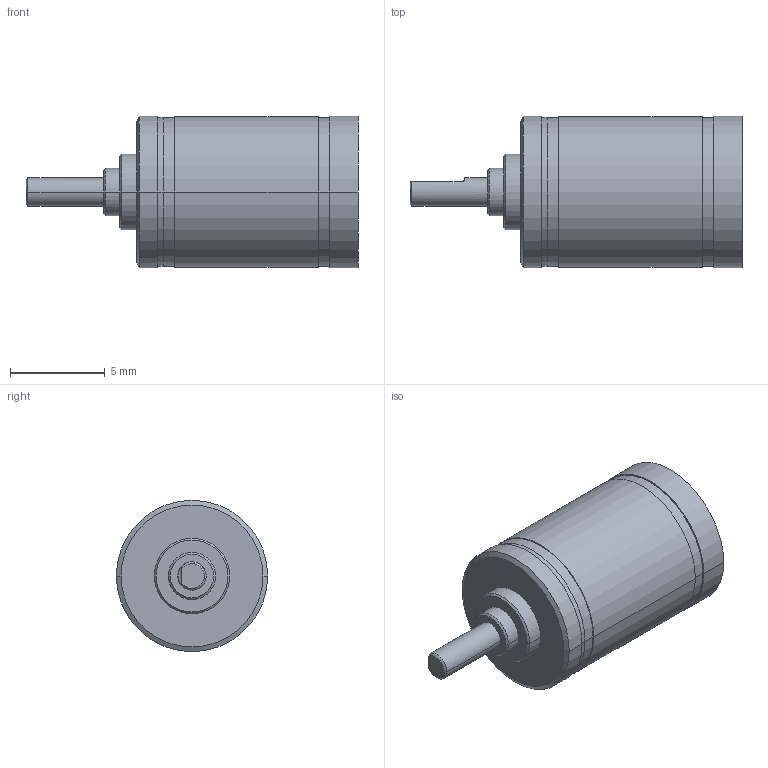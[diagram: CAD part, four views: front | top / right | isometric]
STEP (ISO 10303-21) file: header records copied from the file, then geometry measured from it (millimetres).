
FILE_DESCRIPTION((''),'2;1');
FILE_NAME('GP8A_2-STUFIG_381895','2013-05-21T',('MMAGPETK'),(''),'PRO/ENGINEER BY PARAMETRIC TECHNOLOGY CORPORATION, 2012010','PRO/ENGINEER BY PARAMETRIC TECHNOLOGY CORPORATION, 2012010','');
FILE_SCHEMA(('CONFIG_CONTROL_DESIGN'));
Length unit declared in the file: millimetre
Products named in the file (1): GP8A_2-STUFIG_381895
Bounding box: 17.55 x 8 x 8 mm (x, y, z)
Volume: 597.5 mm3; surface area: 462.6 mm2
Topology: 1 solids, 2 shells, 161 faces, 450 edges, 300 vertices
Faces by surface type: cylinder 111, extrusion 30, plane 13, cone 7
Entity records: 5457 total; most frequent: CARTESIAN_POINT 1157, DIRECTION 913, ORIENTED_EDGE 900, EDGE_CURVE 450, AXIS2_PLACEMENT_3D 366, VERTEX_POINT 300, CIRCLE 235, VECTOR 181
